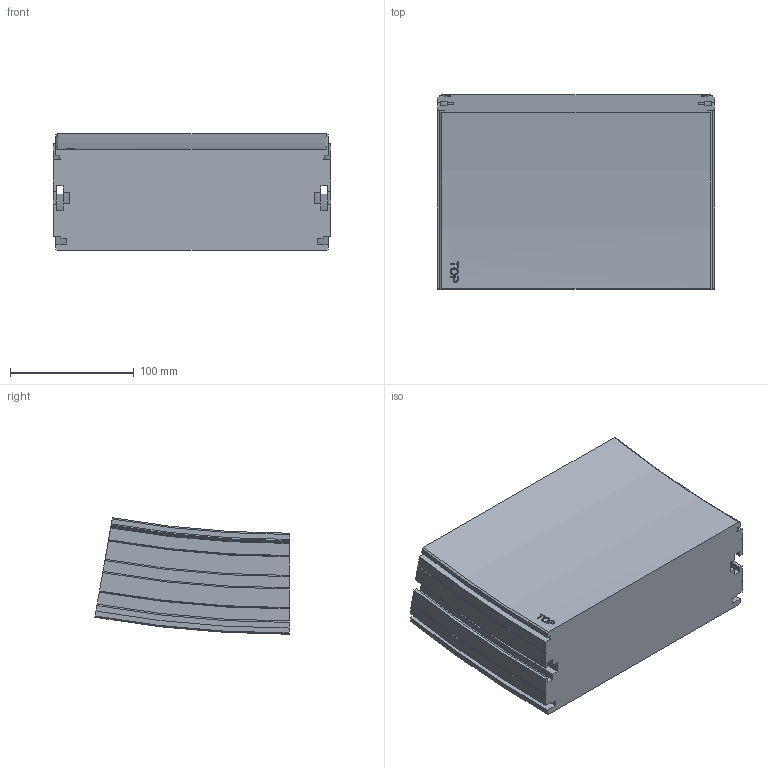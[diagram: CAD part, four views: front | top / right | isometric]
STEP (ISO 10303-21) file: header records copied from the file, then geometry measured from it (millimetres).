
FILE_DESCRIPTION(/* description */ ('VERTIKALKURVA S220 R860'),/* implementation_level */ '2;1');
FILE_NAME(/* name */ '\\carryline.intra\privat\users\mathias\Desktop\Tillfälliga filer\220-5695+220-2000-UPP-01.stp',/* time_stamp */ '2018-11-29T14:51:05+01:00',/* author */ ('MD'),/* organization */ ('CARRYLINE'),/* preprocessor_version */ 'ST-DEVELOPER v17',/* originating_system */ 'Autodesk Inventor 2018',/* authorisation */ '');
FILE_SCHEMA (('AUTOMOTIVE_DESIGN { 1 0 10303 214 3 1 1 }'));
Length unit declared in the file: millimetre
Products named in the file (1): 220-5695+220-2000-UPP-01
Bounding box: 224 x 156.63 x 93.97 mm (x, y, z)
Volume: 2659523.7 mm3; surface area: 148696.2 mm2
Topology: 1 solids, 1 shells, 113 faces, 318 edges, 212 vertices
Faces by surface type: plane 48, cylinder 31, bspline 14, cone 14, torus 6
Entity records: 8349 total; most frequent: CARTESIAN_POINT 5381, ORIENTED_EDGE 636, DIRECTION 576, EDGE_CURVE 318, VERTEX_POINT 212, AXIS2_PLACEMENT_3D 199, LINE 178, VECTOR 178
